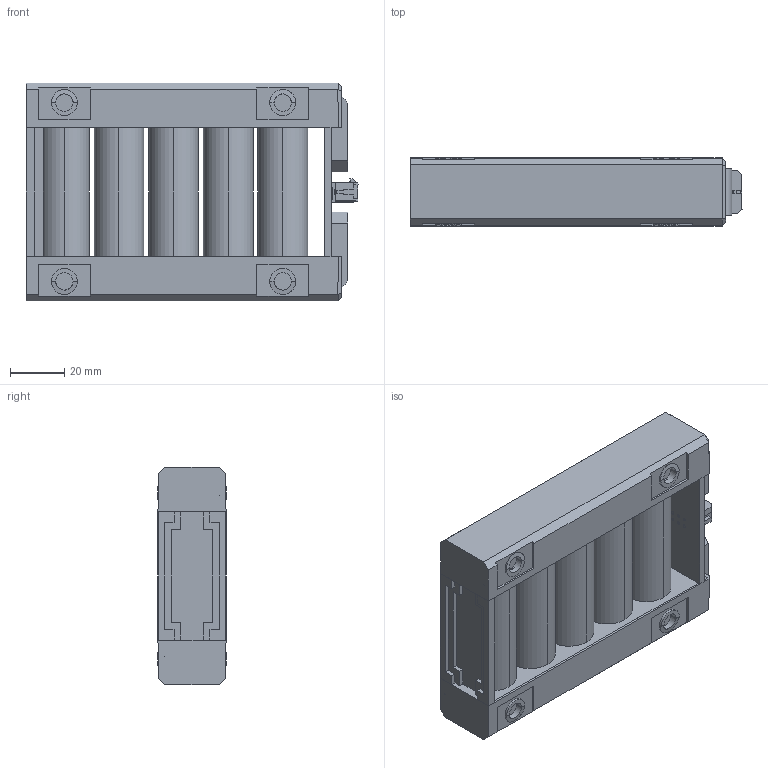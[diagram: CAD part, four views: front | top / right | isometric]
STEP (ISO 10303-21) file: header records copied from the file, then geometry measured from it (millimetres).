
FILE_DESCRIPTION (( 'STEP AP203' ), '1' );
FILE_NAME ('LB-Customer-5P.STEP', '2024-09-09T19:52:20', ( '' ), ( '' ), 'SwSTEP 2.0', 'SolidWorks 2024', '' );
FILE_SCHEMA (( 'CONFIG_CONTROL_DESIGN' ));
Length unit declared in the file: millimetre
Products named in the file (1): LB-Customer-5P
Bounding box: 122.08 x 25.02 x 80.02 mm (x, y, z)
Volume: 164500.3 mm3; surface area: 40914.8 mm2
Topology: 2 solids, 28 shells, 1065 faces, 2758 edges, 1802 vertices
Faces by surface type: plane 782, cylinder 150, bspline 77, cone 38, torus 16, sphere 2
Entity records: 38601 total; most frequent: CARTESIAN_POINT 13015, ORIENTED_EDGE 5508, DIRECTION 4752, EDGE_CURVE 2754, VECTOR 2210, LINE 2210, VERTEX_POINT 1800, AXIS2_PLACEMENT_3D 1271
